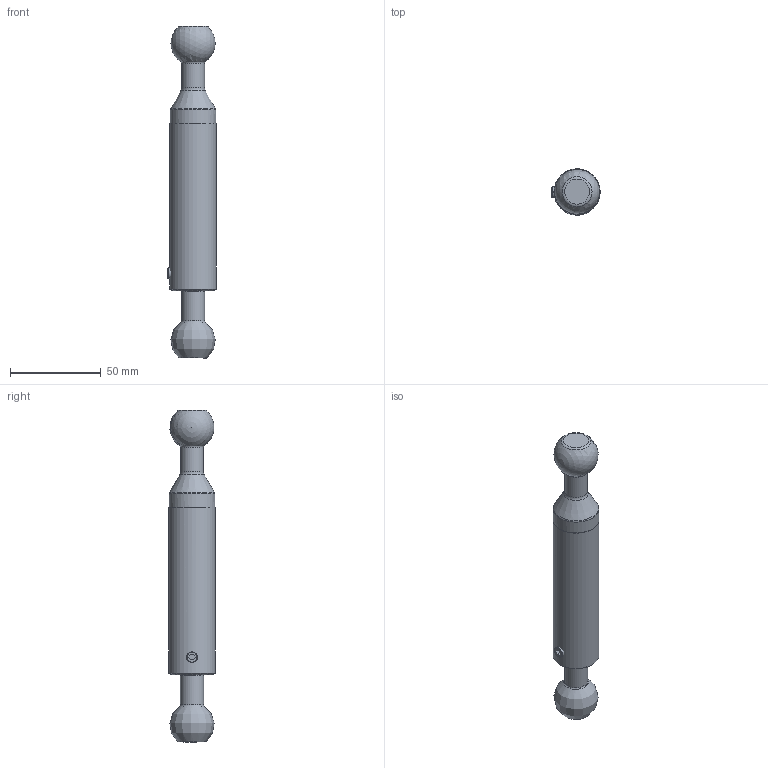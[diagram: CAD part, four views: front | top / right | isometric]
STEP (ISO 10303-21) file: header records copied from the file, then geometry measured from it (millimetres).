
FILE_DESCRIPTION(/* description */ (''),/* implementation_level */ '2;1');
FILE_NAME(/* name */ 'C:\Users\owner\Desktop\PL SERIES\PL_POSTS\PL-TPOST2IN-BL.stp',/* time_stamp */ '2017-09-28T09:14:19-04:00',/* author */ ('owner'),/* organization */ (''),/* preprocessor_version */ 'ST-DEVELOPER v16.5',/* originating_system */ 'Autodesk Inventor 2017',/* authorisation */ '');
FILE_SCHEMA (('CONFIG_CONTROL_DESIGN'));
Length unit declared in the file: inch
Products named in the file (6): PL-TPOST2IN-BL; 60039; 60007; 60046; 60057; 60056
Assembly tree (5 placements, depth 2):
  PL-TPOST2IN-BL
    60039
    60007
    60046
    60057
    60056
Bounding box: 26.57 x 25.4 x 182.64 mm (x, y, z)
Volume: 71243.4 mm3; surface area: 23655.3 mm2
Topology: 5 solids, 5 shells, 884 faces, 2398 edges, 1592 vertices
Faces by surface type: bspline 393, plane 374, cylinder 97, cone 10, torus 9, sphere 1
Full cylindrical faces by diameter (mm): 4 x1, 4.928 x1, 6 x1, 7.912 x1, 7.95 x1, 8.026 x1, 12.611 x1, 12.7 x2, 12.769 x1, 13.785 x1, 13.83 x1, 13.886 x1, 25.146 x1, 25.4 x1
Entity records: 37186 total; most frequent: CARTESIAN_POINT 17485, ORIENTED_EDGE 4610, DIRECTION 2925, EDGE_CURVE 2305, VERTEX_POINT 1551, LINE 1127, VECTOR 1127, EDGE_LOOP 1002
